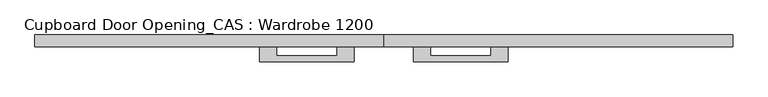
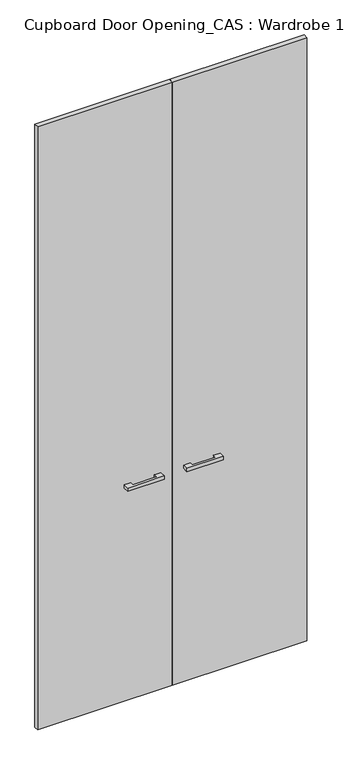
"""IFC4 building model written with IfcOpenShell, lengths in millimetres: furniture geometry, Cupboard Door Opening_CAS : Wardrobe 1200."""

from ifc_helpers import new_model, si_unit, frame, origin, origin_with_axes, place, context, project, spatial, polyline, outline, extrude, source, transform, mapped, element, save


def cupboard_door_opening_cas_wardrobe_1200_5013cd44(model_context):
    return source(origin(), model_context, "Body", "SweptSolid", [
        extrude(outline(polyline([(175.0, -84.0), (175.0, -59.0), (204.0, -59.0), (204.0, -74.0), (306.0, -74.0), (306.0, -59.0), (335.0, -59.0), (335.0, -84.0), (175.0, -84.0)])), frame((0.0, 0.0, 987.5), z_axis=(0.0, 0.0, 1.0), x_axis=(1.0, 0.0, 0.0)), (0.0, 0.0, 1.0), 15.0),
        extrude(outline(polyline([(715.0, -59.0), (125.0, -59.0), (125.0, -39.0), (715.0, -39.0), (715.0, -59.0)])), origin_with_axes(), (0.0, 0.0, 1.0), 2795.0),
        extrude(outline(polyline([(75.0, -84.0), (-85.0, -84.0), (-85.0, -59.0), (-56.0, -59.0), (-56.0, -74.0), (46.0, -74.0), (46.0, -59.0), (75.0, -59.0), (75.0, -84.0)])), frame((0.0, 0.0, 987.5), z_axis=(0.0, 0.0, 1.0), x_axis=(1.0, 0.0, 0.0)), (0.0, 0.0, 1.0), 15.0),
        extrude(outline(polyline([(-465.0, -59.0), (-465.0, -39.0), (125.0, -39.0), (125.0, -59.0), (-465.0, -59.0)])), origin_with_axes(), (0.0, 0.0, 1.0), 2795.0),
    ])


if __name__ == "__main__":
    model = new_model("IFC4")
    model_context = context("Model", 3, world=origin())
    ifc_project = project(units=[si_unit("LENGTHUNIT", "METRE", prefix="MILLI")], contexts=[model_context])
    site = spatial("IfcSite", under=ifc_project)
    building = spatial("IfcBuilding", under=site)
    placement = place(None, origin())
    cupboard_door_opening_cas_wardrobe_1200_shape = cupboard_door_opening_cas_wardrobe_1200_5013cd44(model_context)
    element("IfcFurniture", 1, ObjectType="Cupboard Door Opening_CAS : Wardrobe 1200", at=placement, inside=building, context=model_context, shape_type="MappedRepresentation", body=[
        mapped(cupboard_door_opening_cas_wardrobe_1200_shape, transform((0.0, 0.0, 0.0), x_axis=(1.0, 0.0, 0.0), y_axis=(0.0, 1.0, 0.0), z_axis=(0.0, 0.0, 1.0))),
    ])
    save(model, "model.ifc")
